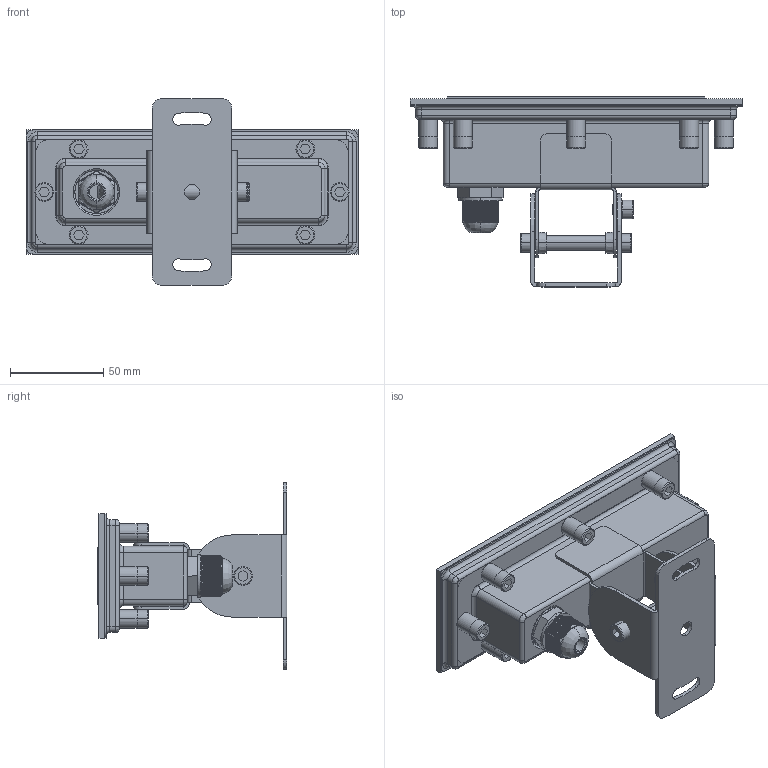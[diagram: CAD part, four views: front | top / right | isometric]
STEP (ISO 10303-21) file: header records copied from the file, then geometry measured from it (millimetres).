
FILE_DESCRIPTION((''),'2;1');
FILE_NAME('B5QA0358_ASM','2021-07-26T',('Administrator'),(''),'CREO PARAMETRIC BY PTC INC, 2015200','CREO PARAMETRIC BY PTC INC, 2015200','');
FILE_SCHEMA(('CONFIG_CONTROL_DESIGN'));
Products named in the file (20): MIANGAI_178_1; CHUGUANGZHAO_173_1; HOUSING-DIE_187_1; SANREKUAI_162_1; PACKING-SILICON_125_1; 4P-1_ASM_168_ASM_1_ASM; 4PA-1-1_ASM; PG11; 4QA-GUANGYUANGBAN; 2FL-03-2020-11-3; 4QA-JIEGUANGMAO; SUS304BOSS; SHANGZHIJIA-0_1; GANGGUAN_1; ISO4762-M6X10-8_8_2_94_1; XIAZHIJIA-1_1; LUOMU_1; SUJIAODIAN_1; ZHIJIA-0_ASM_1_ASM; B5QA0358_ASM
Assembly tree (37 placements, depth 4):
  B5QA0358_ASM
    4PA-1-1_ASM
      4P-1_ASM_168_ASM_1_ASM
        MIANGAI_178_1
        CHUGUANGZHAO_173_1
        HOUSING-DIE_187_1
        SANREKUAI_162_1
        PACKING-SILICON_125_1
    PG11
    4QA-GUANGYUANGBAN
    2FL-03-2020-11-3
    4QA-JIEGUANGMAO
    SUS304BOSS  x8
    ZHIJIA-0_ASM_1_ASM
      SHANGZHIJIA-0_1
      GANGGUAN_1
      ISO4762-M6X10-8_8_2_94_1  x3
      XIAZHIJIA-1_1
      LUOMU_1  x2
      SUJIAODIAN_1
    ISO4762-M6X10-8_8_2_94_1  x8
Bounding box: 177.9 x 101.7 x 100 mm (x, y, z)
Volume: 210391.8 mm3; surface area: 211558.8 mm2
Topology: 34 solids, 34 shells, 2618 faces, 7212 edges, 4745 vertices
Faces by surface type: plane 1565, cylinder 771, cone 196, torus 54, bspline 24, revolution 8
Entity records: 79398 total; most frequent: CARTESIAN_POINT 18271, ORIENTED_EDGE 13228, DIRECTION 12100, EDGE_CURVE 6614, VERTEX_POINT 4365, AXIS2_PLACEMENT_3D 4070, VECTOR 3952, LINE 3952
